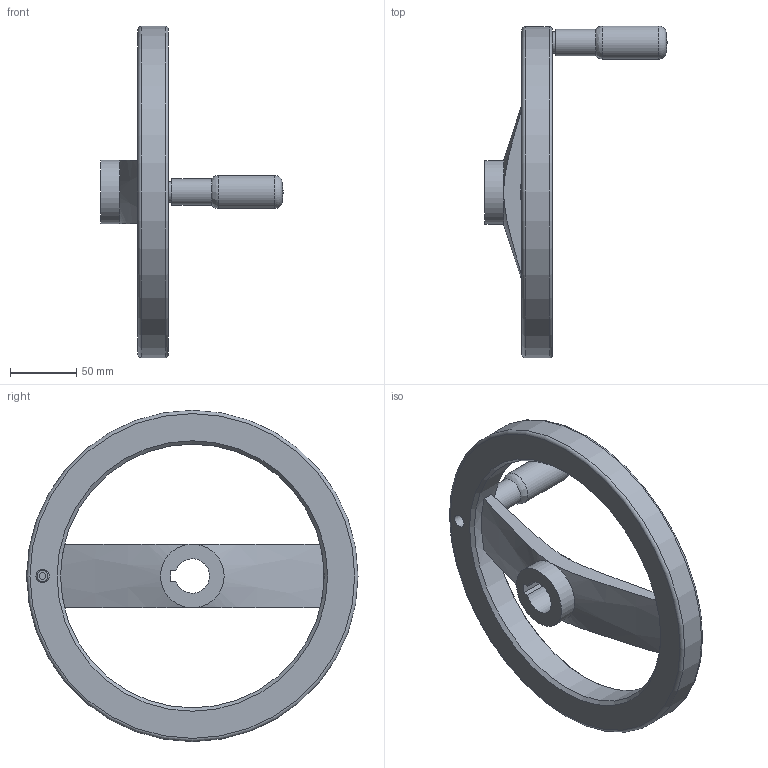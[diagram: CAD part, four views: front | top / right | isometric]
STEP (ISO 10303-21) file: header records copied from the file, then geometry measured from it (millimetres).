
FILE_DESCRIPTION( ( 'STEP AP203' ), '1' );
FILE_NAME( 'C:/Temp/Ganter_Step_05_03_2020/data/1_3/gn_324/gn_324_k/gn_324_k_d/Handwheel, matt black GN 324-250-K26-R.stp', '2020-03-05T10:33:05', ( 'License CC BY-ND 4.0' ), ( 'CADENAS' ), ' ', 'PARTsolutions', ' ' );
FILE_SCHEMA( ( 'CONFIG_CONTROL_DESIGN' ) );
Length unit declared in the file: millimetre
Products named in the file (1): _Handwheel, matt black GN 324-250-K26-R
Bounding box: 137.5 x 250.5 x 250 mm (x, y, z)
Volume: 559948.1 mm3; surface area: 99006 mm2
Topology: 1 solids, 2 shells, 43 faces, 97 edges, 60 vertices
Faces by surface type: plane 19, cylinder 11, cone 8, torus 3, sphere 1, bspline 1
Full cylindrical faces by diameter (mm): 8.14 x1, 10 x2, 16 x1, 20 x1, 25 x1, 48 x2, 199 x1, 250 x1
Entity records: 1287 total; most frequent: CARTESIAN_POINT 358, DIRECTION 186, ORIENTED_EDGE 148, AXIS2_PLACEMENT_3D 77, EDGE_CURVE 74, EDGE_LOOP 72, FACE_OUTER_BOUND 57, VERTEX_POINT 57
